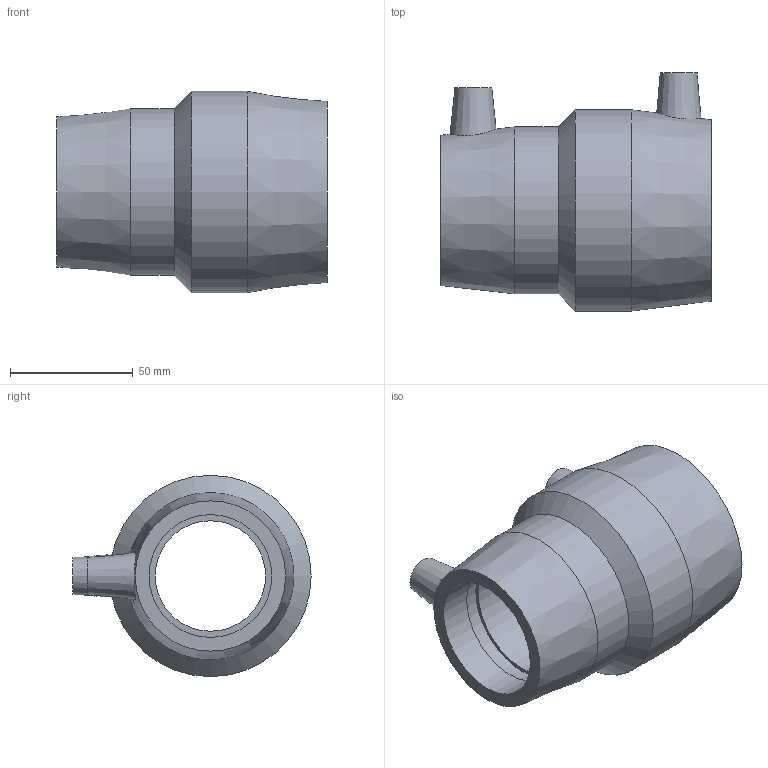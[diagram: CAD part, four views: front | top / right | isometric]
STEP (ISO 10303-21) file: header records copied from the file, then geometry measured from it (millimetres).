
FILE_DESCRIPTION(/* description */ ('PLASSON REDUCING COUPLER 63-50'),/* implementation_level */ '2;1');
FILE_NAME(/* name */ 'C:\Users\comp2\Dropbox\99-16-3568-Processing\491104 (Type 3)\stp\491104063050.stp',/* time_stamp */ '2022-06-29T14:25:30+01:00',/* author */ ('KIM'),/* organization */ (''),/* preprocessor_version */ 'ST-DEVELOPER v17.2',/* originating_system */ 'Autodesk Inventor 2019',/* authorisation */ '');
FILE_SCHEMA (('AUTOMOTIVE_DESIGN { 1 0 10303 214 3 1 1 }'));
Length unit declared in the file: millimetre
Products named in the file (1): 491104063050
Bounding box: 110 x 97 x 82 mm (x, y, z)
Volume: 193996.2 mm3; surface area: 52780 mm2
Topology: 1 solids, 1 shells, 31 faces, 72 edges, 53 vertices
Faces by surface type: plane 12, cylinder 11, cone 8
Full cylindrical faces by diameter (mm): 4 x2, 10 x2, 45 x1, 50 x2, 63 x2, 68 x1, 82 x1
Entity records: 1040 total; most frequent: CARTESIAN_POINT 225, DIRECTION 181, ORIENTED_EDGE 144, AXIS2_PLACEMENT_3D 81, EDGE_CURVE 72, VERTEX_POINT 53, CIRCLE 49, EDGE_LOOP 43
